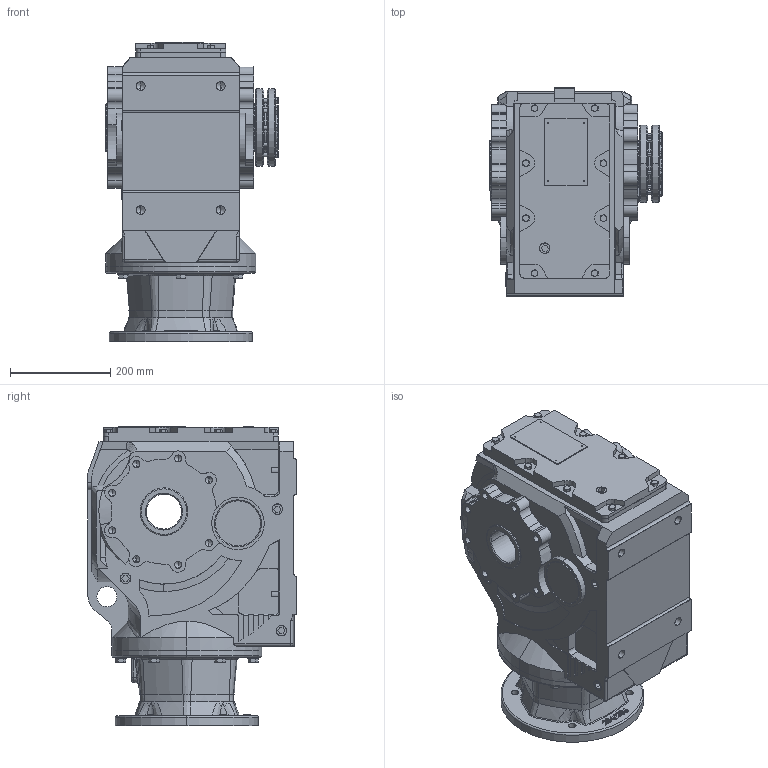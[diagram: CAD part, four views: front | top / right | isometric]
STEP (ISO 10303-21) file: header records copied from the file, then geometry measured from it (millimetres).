
FILE_DESCRIPTION (( 'STEP AP203' ), '1' );
FILE_NAME ('KAN97-284TC-A-POWER LOCK.STEP', '2020-12-04T06:16:34', ( 'Microsoft' ), ( 'Microsoft' ), 'SwSTEP 2.0', 'SolidWorks 2012', '' );
FILE_SCHEMA (( 'CONFIG_CONTROL_DESIGN' ));
Length unit declared in the file: millimetre
Products named in the file (1): KAN97-284TC-A-POWER LOCK
Bounding box: 345 x 417.5 x 599.5 mm (x, y, z)
Volume: 45011496.1 mm3; surface area: 1475222.3 mm2
Topology: 2 solids, 32 shells, 1947 faces, 4829 edges, 3017 vertices
Faces by surface type: plane 712, cylinder 622, cone 399, bspline 177, torus 34, sphere 3
Entity records: 67954 total; most frequent: CARTESIAN_POINT 22690, ORIENTED_EDGE 9464, DIRECTION 9271, EDGE_CURVE 4732, AXIS2_PLACEMENT_3D 3503, VERTEX_POINT 3017, VECTOR 2265, LINE 2265
